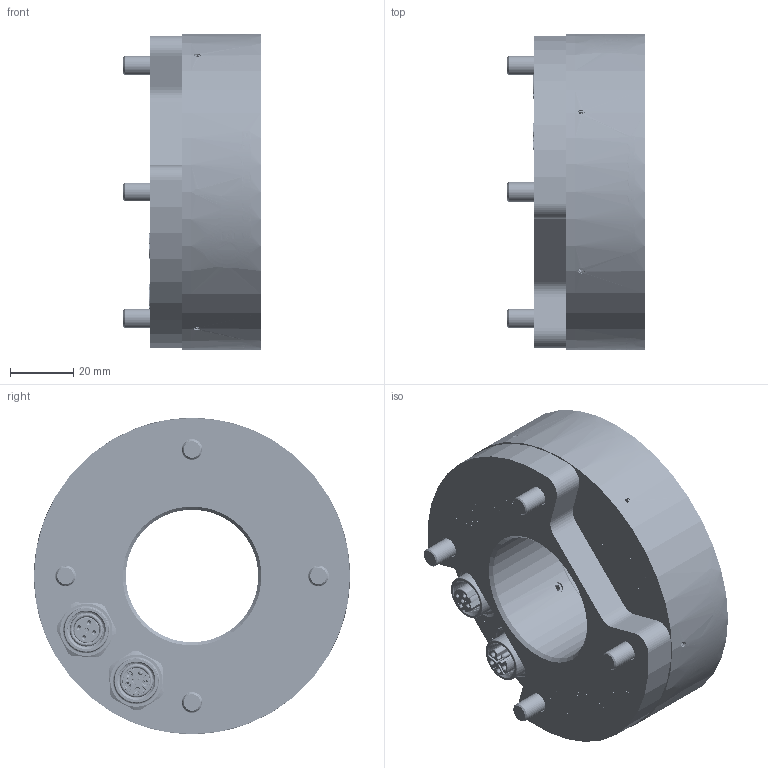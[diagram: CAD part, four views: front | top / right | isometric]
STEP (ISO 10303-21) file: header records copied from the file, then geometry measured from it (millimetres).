
FILE_DESCRIPTION (( 'STEP AP203' ), '1' );
FILE_NAME ('0E012325_IC-REMOTE F 100_50_zum_Versenden.STEP', '2023-12-20T06:07:41', ( '' ), ( '' ), 'SwSTEP 2.0', 'SolidWorks 2023', '' );
FILE_SCHEMA (( 'CONFIG_CONTROL_DESIGN' ));
Length unit declared in the file: millimetre
Products named in the file (1): 0E012325_IC-REMOTE F 100_50_zum_Versenden
Bounding box: 43.4 x 100 x 100 mm (x, y, z)
Surface area: 85928.9 mm2 (no closed solid volume)
Topology: 0 solids, 56 shells, 7022 faces, 19799 edges, 13496 vertices
Faces by surface type: plane 3843, bspline 2318, cylinder 568, cone 187, torus 106
Entity records: 347388 total; most frequent: CARTESIAN_POINT 181544, ORIENTED_EDGE 38872, DIRECTION 25199, EDGE_CURVE 19779, VERTEX_POINT 13496, VECTOR 12685, LINE 12685, EDGE_LOOP 7836
